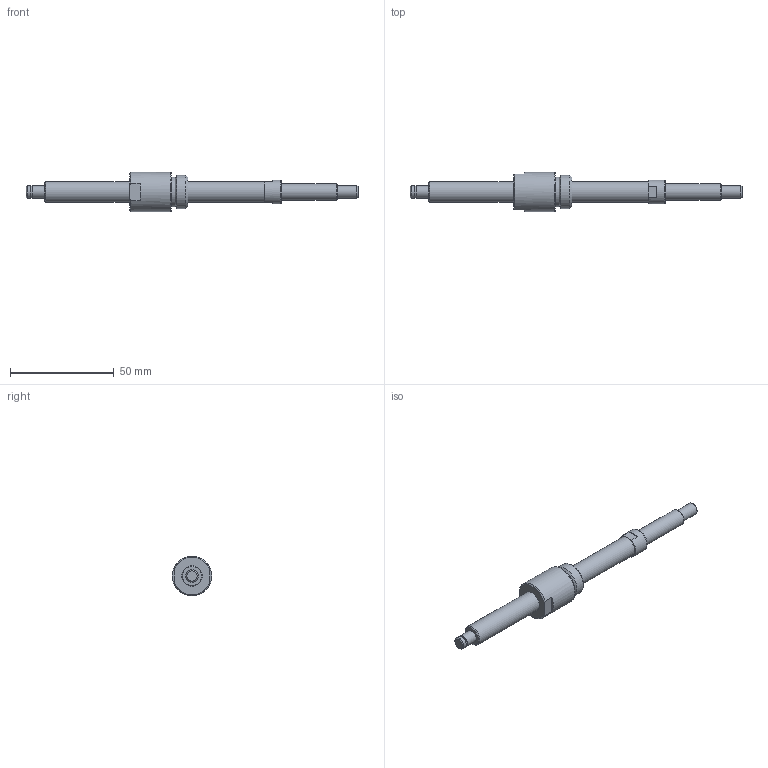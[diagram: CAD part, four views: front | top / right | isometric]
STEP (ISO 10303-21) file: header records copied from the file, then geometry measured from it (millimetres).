
FILE_DESCRIPTION(/* description */ ('STEP AP214'),/* implementation_level */ '2;1');
FILE_NAME(/* name */ 'NSG1004-101R160C5B0X(41)',/* time_stamp */ '2026-08-20T15:49:28+02:00',/* author */ ('License CC BY-ND 4.0'),/* organization */ ('CADENAS'),/* preprocessor_version */ 'ST-DEVELOPER v20',/* originating_system */ 'PARTsolutions',/* authorisation */ ' ');
FILE_SCHEMA (('AUTOMOTIVE_DESIGN {1 0 10303 214 3 1 1}'));
Length unit declared in the file: millimetre
Products named in the file (3): NSG1004-101R160C5B0X(41); NSG1004-101R160C3B_shaft; NSG1004_nut
Assembly tree (2 placements, depth 2):
  NSG1004-101R160C5B0X(41)
    NSG1004-101R160C3B_shaft
    NSG1004_nut
Bounding box: 160 x 19 x 19 mm (x, y, z)
Volume: 15919 mm3; surface area: 7701.5 mm2
Topology: 2 solids, 2 shells, 42 faces, 83 edges, 51 vertices
Faces by surface type: plane 20, cylinder 11, cone 10, torus 1
Full cylindrical faces by diameter (mm): 5.7 x1, 6 x3, 8 x1, 10 x2, 11.5 x1, 14.4 x1, 16 x1, 19 x1
Entity records: 1047 total; most frequent: DIRECTION 186, CARTESIAN_POINT 167, ORIENTED_EDGE 122, AXIS2_PLACEMENT_3D 84, EDGE_LOOP 70, FACE_BOUND 70, EDGE_CURVE 61, VERTEX_POINT 49
